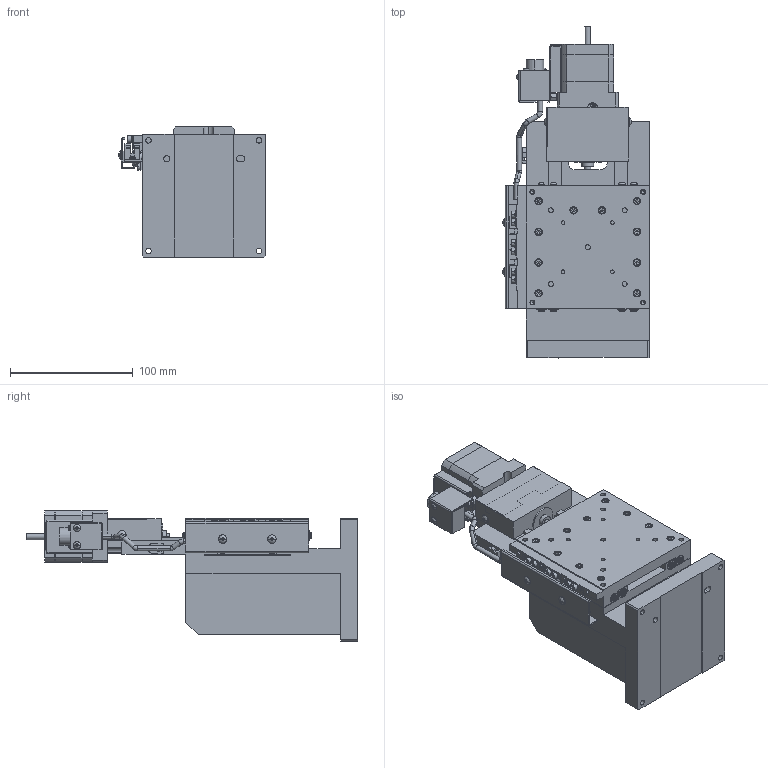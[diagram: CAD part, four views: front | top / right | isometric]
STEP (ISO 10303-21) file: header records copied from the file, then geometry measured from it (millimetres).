
FILE_DESCRIPTION (( 'STEP AP203' ), '1' );
FILE_NAME ('ZA10A-X102.STEP', '2019-03-06T08:36:00', ( '' ), ( '' ), 'SwSTEP 2.0', 'SolidWorks 2018', '' );
FILE_SCHEMA (( 'CONFIG_CONTROL_DESIGN' ));
Length unit declared in the file: millimetre
Products named in the file (3): ZA10A-X102; base; table
Assembly tree (2 placements, depth 2):
  ZA10A-X102
    table
    base
Bounding box: 119.09 x 270 x 106 mm (x, y, z)
Volume: 996184.9 mm3; surface area: 205913.4 mm2
Topology: 2 solids, 2 shells, 2185 faces, 5401 edges, 3301 vertices
Faces by surface type: plane 1313, cylinder 510, cone 292, sphere 36, torus 34
Entity records: 64777 total; most frequent: CARTESIAN_POINT 11642, DIRECTION 11530, ORIENTED_EDGE 10626, EDGE_CURVE 5313, AXIS2_PLACEMENT_3D 4103, VECTOR 3324, LINE 3324, VERTEX_POINT 3301
